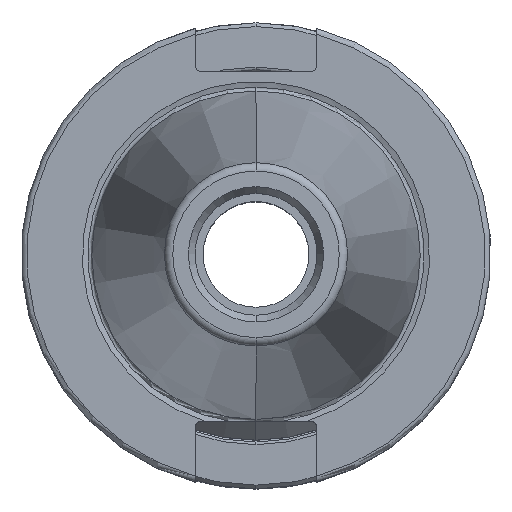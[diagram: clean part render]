
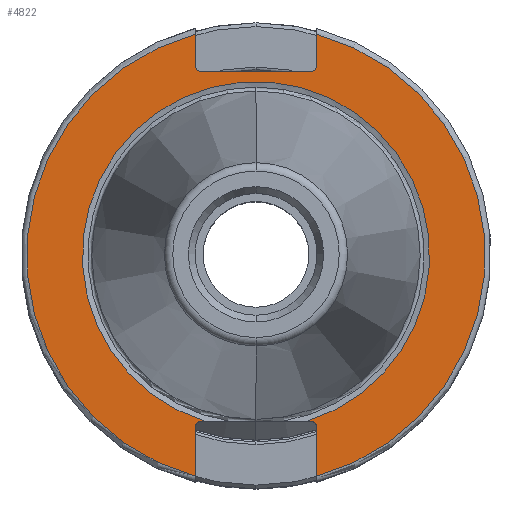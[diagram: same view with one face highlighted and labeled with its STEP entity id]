
A CAD part, top view. The second image highlights one B-rep face of the part: STEP entity #4822.
In plain terms, the highlighted planar face has unit normal (0, 0, 1).
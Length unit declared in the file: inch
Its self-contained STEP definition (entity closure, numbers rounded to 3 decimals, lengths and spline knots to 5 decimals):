
#161 = AXIS2_PLACEMENT_3D ( 'NONE', #2169, #16548, #6389 ) ;
#265 = VERTEX_POINT ( 'NONE', #3322 ) ;
#324 = CIRCLE ( 'NONE', #15341, 1.22 ) ;
#354 = EDGE_CURVE ( 'NONE', #11829, #10624, #16903, .T. ) ;
#523 = VERTEX_POINT ( 'NONE', #13164 ) ;
#584 = CARTESIAN_POINT ( 'NONE',  ( -0.3225, -0.9125, -0.125 ) ) ;
#616 = DIRECTION ( 'NONE',  ( 0., 0., -1. ) ) ;
#729 = ORIENTED_EDGE ( 'NONE', *, *, #2545, .F. ) ;
#768 = CARTESIAN_POINT ( 'NONE',  ( -0.3225, 0., -0.125 ) ) ;
#827 = EDGE_CURVE ( 'NONE', #15319, #18428, #8380, .T. ) ;
#1080 = ORIENTED_EDGE ( 'NONE', *, *, #5596, .T. ) ;
#1270 = FACE_OUTER_BOUND ( 'NONE', #2274, .T. ) ;
#1314 = ORIENTED_EDGE ( 'NONE', *, *, #3779, .F. ) ;
#1704 = LINE ( 'NONE', #6105, #14981 ) ;
#1897 = AXIS2_PLACEMENT_3D ( 'NONE', #10725, #18039, #15171 ) ;
#2100 = EDGE_CURVE ( 'NONE', #10346, #12992, #3576, .T. ) ;
#2169 = CARTESIAN_POINT ( 'NONE',  ( 0.2925, 1.0075, -0.125 ) ) ;
#2217 = VERTEX_POINT ( 'NONE', #16588 ) ;
#2270 = CIRCLE ( 'NONE', #7355, 0.03 ) ;
#2274 = EDGE_LOOP ( 'NONE', ( #3411, #729, #16484, #13580, #12439, #15032, #17035, #3136, #1080, #1314, #15603, #3550, #14980, #8827 ) ) ;
#2320 = EDGE_CURVE ( 'NONE', #17207, #3574, #2634, .T. ) ;
#2404 = DIRECTION ( 'NONE',  ( 0., -1., 0. ) ) ;
#2545 = EDGE_CURVE ( 'NONE', #265, #2217, #324, .T. ) ;
#2634 = LINE ( 'NONE', #4236, #15610 ) ;
#2803 = DIRECTION ( 'NONE',  ( 0., -1., 0. ) ) ;
#2850 = DIRECTION ( 'NONE',  ( 0., -1., 0. ) ) ;
#2970 = DIRECTION ( 'NONE',  ( 0., 0., -1. ) ) ;
#2972 = VERTEX_POINT ( 'NONE', #8719 ) ;
#3136 = ORIENTED_EDGE ( 'NONE', *, *, #10160, .T. ) ;
#3166 = CARTESIAN_POINT ( 'NONE',  ( 0.2925, -0.9125, -0.125 ) ) ;
#3322 = CARTESIAN_POINT ( 'NONE',  ( -0.3225, -1.1766, -0.125 ) ) ;
#3376 = DIRECTION ( 'NONE',  ( 1., 0., 0. ) ) ;
#3411 = ORIENTED_EDGE ( 'NONE', *, *, #16596, .F. ) ;
#3550 = ORIENTED_EDGE ( 'NONE', *, *, #8593, .T. ) ;
#3564 = DIRECTION ( 'NONE',  ( 0., 1., 0. ) ) ;
#3574 = VERTEX_POINT ( 'NONE', #4178 ) ;
#3576 = CIRCLE ( 'NONE', #16797, 0.92393 ) ;
#3593 = AXIS2_PLACEMENT_3D ( 'NONE', #17075, #11470, #2850 ) ;
#3779 = EDGE_CURVE ( 'NONE', #3574, #2972, #12381, .T. ) ;
#4054 = CARTESIAN_POINT ( 'NONE',  ( 0.3225, 0., -0.125 ) ) ;
#4178 = CARTESIAN_POINT ( 'NONE',  ( 0.3225, 1.1766, -0.125 ) ) ;
#4198 = LINE ( 'NONE', #14353, #15560 ) ;
#4236 = CARTESIAN_POINT ( 'NONE',  ( 0.3225, 0., -0.125 ) ) ;
#4249 = VECTOR ( 'NONE', #3564, 39.37008 ) ;
#4279 = CARTESIAN_POINT ( 'NONE',  ( 0., 0., -0.125 ) ) ;
#4483 = CARTESIAN_POINT ( 'NONE',  ( -0.2925, 0.9775, -0.125 ) ) ;
#4643 = DIRECTION ( 'NONE',  ( 0., 0., -1. ) ) ;
#4811 = DIRECTION ( 'NONE',  ( 0., 1., 0. ) ) ;
#4822 = ADVANCED_FACE ( 'NONE', ( #1270 ), #14125, .T. ) ;
#5027 = CARTESIAN_POINT ( 'NONE',  ( -0.2925, -0.9125, -0.125 ) ) ;
#5261 = EDGE_CURVE ( 'NONE', #18428, #10346, #18536, .T. ) ;
#5589 = CARTESIAN_POINT ( 'NONE',  ( 0.3225, -0.9125, -0.125 ) ) ;
#5596 = EDGE_CURVE ( 'NONE', #17487, #2972, #15622, .T. ) ;
#5610 = CARTESIAN_POINT ( 'NONE',  ( 1.22, -0.8825, -0.125 ) ) ;
#5765 = EDGE_CURVE ( 'NONE', #265, #15319, #6399, .T. ) ;
#5778 = AXIS2_PLACEMENT_3D ( 'NONE', #16505, #616, #4811 ) ;
#6105 = CARTESIAN_POINT ( 'NONE',  ( 1.22, -0.8825, -0.125 ) ) ;
#6389 = DIRECTION ( 'NONE',  ( 0., -1., 0. ) ) ;
#6399 = LINE ( 'NONE', #768, #4249 ) ;
#7355 = AXIS2_PLACEMENT_3D ( 'NONE', #3166, #2970, #14730 ) ;
#8246 = CIRCLE ( 'NONE', #161, 0.03 ) ;
#8380 = CIRCLE ( 'NONE', #8692, 0.03 ) ;
#8455 = VECTOR ( 'NONE', #12780, 39.37008 ) ;
#8593 = EDGE_CURVE ( 'NONE', #17207, #10354, #8246, .T. ) ;
#8692 = AXIS2_PLACEMENT_3D ( 'NONE', #5027, #17974, #2404 ) ;
#8719 = CARTESIAN_POINT ( 'NONE',  ( 0.3225, -1.1766, -0.125 ) ) ;
#8827 = ORIENTED_EDGE ( 'NONE', *, *, #354, .T. ) ;
#9204 = CARTESIAN_POINT ( 'NONE',  ( -0.27356, -0.8825, -0.125 ) ) ;
#9417 = CARTESIAN_POINT ( 'NONE',  ( 0., 0., -0.125 ) ) ;
#9503 = DIRECTION ( 'NONE',  ( 0., 1., 0. ) ) ;
#10158 = CARTESIAN_POINT ( 'NONE',  ( -0.3225, 1.0075, -0.125 ) ) ;
#10160 = EDGE_CURVE ( 'NONE', #523, #17487, #2270, .T. ) ;
#10346 = VERTEX_POINT ( 'NONE', #9204 ) ;
#10354 = VERTEX_POINT ( 'NONE', #14017 ) ;
#10624 = VERTEX_POINT ( 'NONE', #10158 ) ;
#10725 = CARTESIAN_POINT ( 'NONE',  ( -0.2925, 1.0075, -0.125 ) ) ;
#11470 = DIRECTION ( 'NONE',  ( 0., 0., 1. ) ) ;
#11821 = EDGE_CURVE ( 'NONE', #11829, #10354, #4198, .T. ) ;
#11829 = VERTEX_POINT ( 'NONE', #4483 ) ;
#12381 = CIRCLE ( 'NONE', #5778, 1.22 ) ;
#12439 = ORIENTED_EDGE ( 'NONE', *, *, #5261, .T. ) ;
#12780 = DIRECTION ( 'NONE',  ( 0., -1., 0. ) ) ;
#12977 = DIRECTION ( 'NONE',  ( 0., 1., 0. ) ) ;
#12992 = VERTEX_POINT ( 'NONE', #15556 ) ;
#13111 = DIRECTION ( 'NONE',  ( 0., 1., 0. ) ) ;
#13164 = CARTESIAN_POINT ( 'NONE',  ( 0.2925, -0.8825, -0.125 ) ) ;
#13580 = ORIENTED_EDGE ( 'NONE', *, *, #827, .T. ) ;
#14017 = CARTESIAN_POINT ( 'NONE',  ( 0.2925, 0.9775, -0.125 ) ) ;
#14125 = PLANE ( 'NONE',  #3593 ) ;
#14353 = CARTESIAN_POINT ( 'NONE',  ( 1.22, 0.9775, -0.125 ) ) ;
#14360 = LINE ( 'NONE', #17411, #16856 ) ;
#14730 = DIRECTION ( 'NONE',  ( 0., -1., 0. ) ) ;
#14980 = ORIENTED_EDGE ( 'NONE', *, *, #11821, .F. ) ;
#14981 = VECTOR ( 'NONE', #3376, 39.37008 ) ;
#15032 = ORIENTED_EDGE ( 'NONE', *, *, #2100, .T. ) ;
#15171 = DIRECTION ( 'NONE',  ( 0., -1., 0. ) ) ;
#15232 = CARTESIAN_POINT ( 'NONE',  ( -0.2925, -0.8825, -0.125 ) ) ;
#15319 = VERTEX_POINT ( 'NONE', #584 ) ;
#15341 = AXIS2_PLACEMENT_3D ( 'NONE', #9417, #18106, #9503 ) ;
#15556 = CARTESIAN_POINT ( 'NONE',  ( 0.27356, -0.8825, -0.125 ) ) ;
#15560 = VECTOR ( 'NONE', #17109, 39.37008 ) ;
#15603 = ORIENTED_EDGE ( 'NONE', *, *, #2320, .F. ) ;
#15610 = VECTOR ( 'NONE', #12977, 39.37008 ) ;
#15622 = LINE ( 'NONE', #4054, #8455 ) ;
#16484 = ORIENTED_EDGE ( 'NONE', *, *, #5765, .T. ) ;
#16505 = CARTESIAN_POINT ( 'NONE',  ( 0., 0., -0.125 ) ) ;
#16548 = DIRECTION ( 'NONE',  ( 0., 0., -1. ) ) ;
#16588 = CARTESIAN_POINT ( 'NONE',  ( -0.3225, 1.1766, -0.125 ) ) ;
#16596 = EDGE_CURVE ( 'NONE', #2217, #10624, #14360, .T. ) ;
#16743 = CARTESIAN_POINT ( 'NONE',  ( 0.3225, 1.0075, -0.125 ) ) ;
#16797 = AXIS2_PLACEMENT_3D ( 'NONE', #4279, #4643, #13111 ) ;
#16856 = VECTOR ( 'NONE', #2803, 39.37008 ) ;
#16903 = CIRCLE ( 'NONE', #1897, 0.03 ) ;
#17035 = ORIENTED_EDGE ( 'NONE', *, *, #18286, .T. ) ;
#17075 = CARTESIAN_POINT ( 'NONE',  ( 1.22, 0., -0.125 ) ) ;
#17109 = DIRECTION ( 'NONE',  ( 1., 0., 0. ) ) ;
#17117 = DIRECTION ( 'NONE',  ( 1., 0., 0. ) ) ;
#17207 = VERTEX_POINT ( 'NONE', #16743 ) ;
#17411 = CARTESIAN_POINT ( 'NONE',  ( -0.3225, 0., -0.125 ) ) ;
#17487 = VERTEX_POINT ( 'NONE', #5589 ) ;
#17974 = DIRECTION ( 'NONE',  ( 0., 0., -1. ) ) ;
#18039 = DIRECTION ( 'NONE',  ( 0., 0., -1. ) ) ;
#18106 = DIRECTION ( 'NONE',  ( 0., 0., -1. ) ) ;
#18286 = EDGE_CURVE ( 'NONE', #12992, #523, #1704, .T. ) ;
#18369 = VECTOR ( 'NONE', #17117, 39.37008 ) ;
#18428 = VERTEX_POINT ( 'NONE', #15232 ) ;
#18536 = LINE ( 'NONE', #5610, #18369 ) ;
